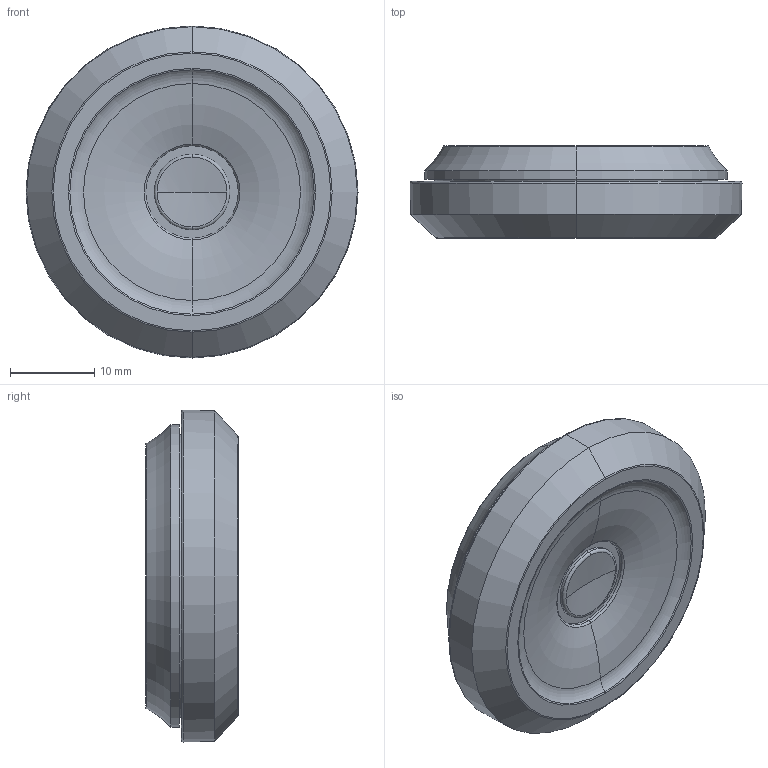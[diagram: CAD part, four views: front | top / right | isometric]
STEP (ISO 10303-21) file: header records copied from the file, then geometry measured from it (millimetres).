
FILE_DESCRIPTION (( 'STEP AP203' ), '1' );
FILE_NAME ('1475714-tst.step', '2007-10-24T15:36:17', ( 'Gustaf Hederström' ), ( 'Cevican AB' ), 'SwSTEP 2.0', 'SolidWorks 2002308', '' );
FILE_SCHEMA (( 'CONFIG_CONTROL_DESIGN' ));
Length unit declared in the file: millimetre
Products named in the file (1): 1475714-tst
Bounding box: 39.49 x 11 x 39.49 mm (x, y, z)
Volume: 5865.8 mm3; surface area: 5019.9 mm2
Topology: 1 solids, 1 shells, 63 faces, 126 edges, 69 vertices
Faces by surface type: torus 32, cone 14, cylinder 10, plane 5, sphere 2
Entity records: 1719 total; most frequent: DIRECTION 356, CARTESIAN_POINT 259, ORIENTED_EDGE 252, AXIS2_PLACEMENT_3D 166, EDGE_CURVE 126, CIRCLE 102, VERTEX_POINT 69, EDGE_LOOP 67
